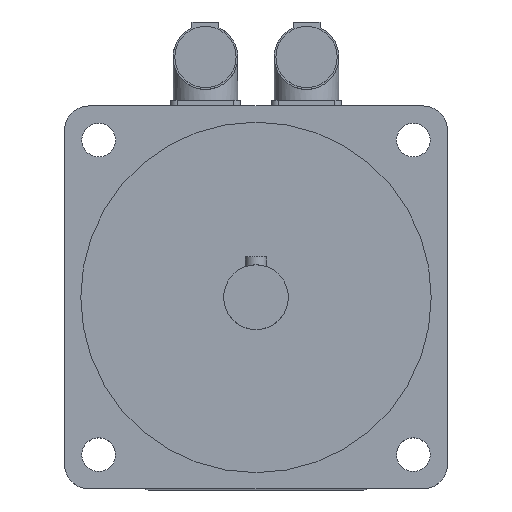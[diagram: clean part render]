
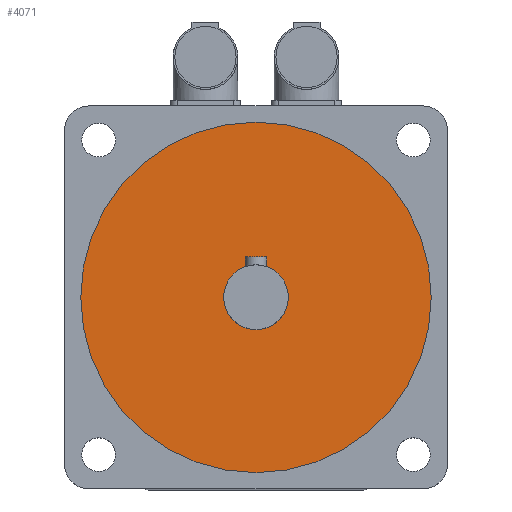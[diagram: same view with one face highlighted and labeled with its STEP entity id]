
A CAD part, top view. The second image highlights one B-rep face of the part: STEP entity #4071.
In plain terms, the highlighted planar face has unit normal (0, 0, 1).
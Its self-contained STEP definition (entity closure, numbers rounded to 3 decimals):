
#28=FACE_BOUND('',#533,.T.);
#79=PLANE('',#4432);
#278=FACE_OUTER_BOUND('',#532,.T.);
#532=EDGE_LOOP('',(#2985));
#533=EDGE_LOOP('',(#2986));
#1517=CIRCLE('',#4427,12.);
#1518=CIRCLE('',#4430,65.);
#1774=VERTEX_POINT('',#6532);
#1775=VERTEX_POINT('',#6536);
#2232=EDGE_CURVE('',#1774,#1774,#1517,.T.);
#2233=EDGE_CURVE('',#1775,#1775,#1518,.T.);
#2985=ORIENTED_EDGE('',*,*,#2233,.T.);
#2986=ORIENTED_EDGE('',*,*,#2232,.T.);
#4071=ADVANCED_FACE('',(#278,#28),#79,.F.);
#4427=AXIS2_PLACEMENT_3D('',#6533,#5205,#5206);
#4430=AXIS2_PLACEMENT_3D('',#6537,#5211,#5212);
#4432=AXIS2_PLACEMENT_3D('',#6540,#5215,#5216);
#5205=DIRECTION('center_axis',(0.,0.,
-1.));
#5206=DIRECTION('ref_axis',(-1.,0.,0.));
#5211=DIRECTION('center_axis',(0.,0.,
1.));
#5212=DIRECTION('ref_axis',(-1.,0.,0.));
#5215=DIRECTION('center_axis',(0.,0.,
-1.));
#5216=DIRECTION('ref_axis',(-1.,0.,0.));
#6532=CARTESIAN_POINT('',(12.,0.,226.5));
#6533=CARTESIAN_POINT('Origin',(0.,0.,
226.5));
#6536=CARTESIAN_POINT('',(65.,0.,226.5));
#6537=CARTESIAN_POINT('Origin',(0.,0.,
226.5));
#6540=CARTESIAN_POINT('Origin',(0.,0.,
226.5));
